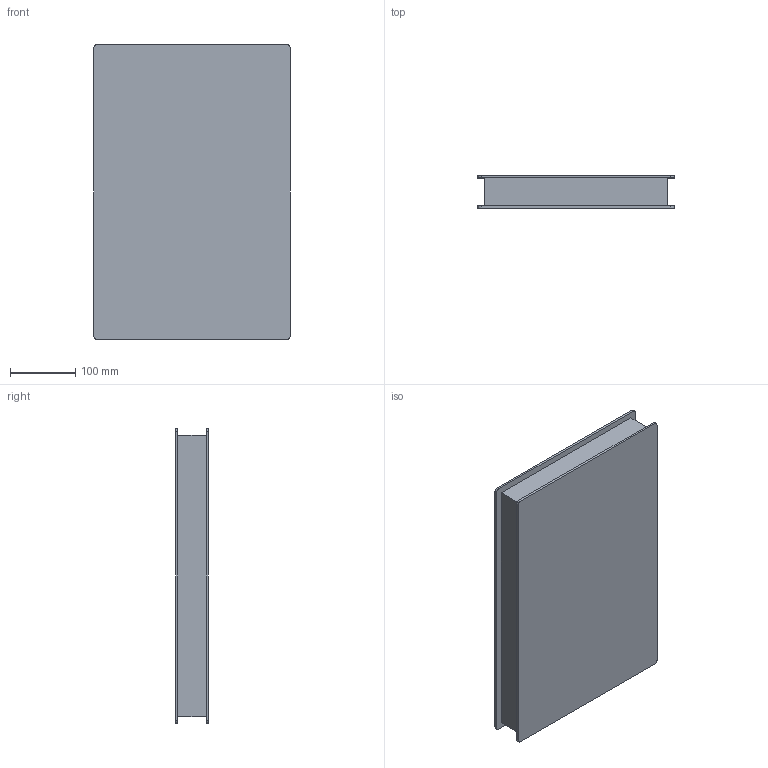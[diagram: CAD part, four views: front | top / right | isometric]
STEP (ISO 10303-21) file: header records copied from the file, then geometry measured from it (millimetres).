
FILE_DESCRIPTION (( 'STEP AP203' ), '1' );
FILE_NAME ('M-BRS4-3045-5.step', '2017-01-10T01:11:47', ( '¦K¬P' ), ( '' ), 'SwSTEP 2.0', 'SolidWorks 2012', '' );
FILE_SCHEMA (( 'CONFIG_CONTROL_DESIGN' ));
Length unit declared in the file: millimetre
Products named in the file (1): M-BRS4-3045-5
Bounding box: 300 x 50 x 450 mm (x, y, z)
Volume: 6106216.2 mm3; surface area: 381169.8 mm2
Topology: 1 solids, 1 shells, 344 faces, 540 edges, 360 vertices
Faces by surface type: plane 176, cylinder 168
Full cylindrical faces by diameter (mm): 6 x160
Entity records: 7197 total; most frequent: DIRECTION 1406, CARTESIAN_POINT 1085, ORIENTED_EDGE 760, AXIS2_PLACEMENT_3D 681, EDGE_LOOP 666, FACE_OUTER_BOUND 504, EDGE_CURVE 380, VERTEX_POINT 360
